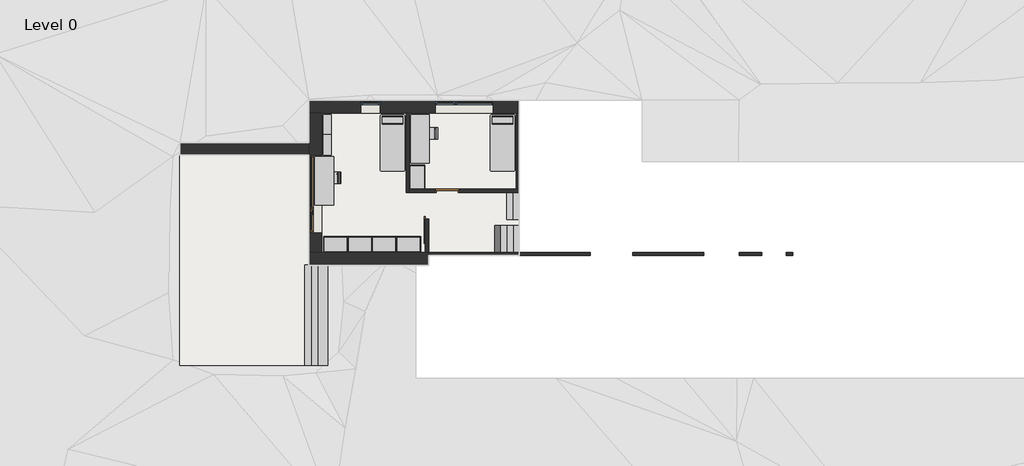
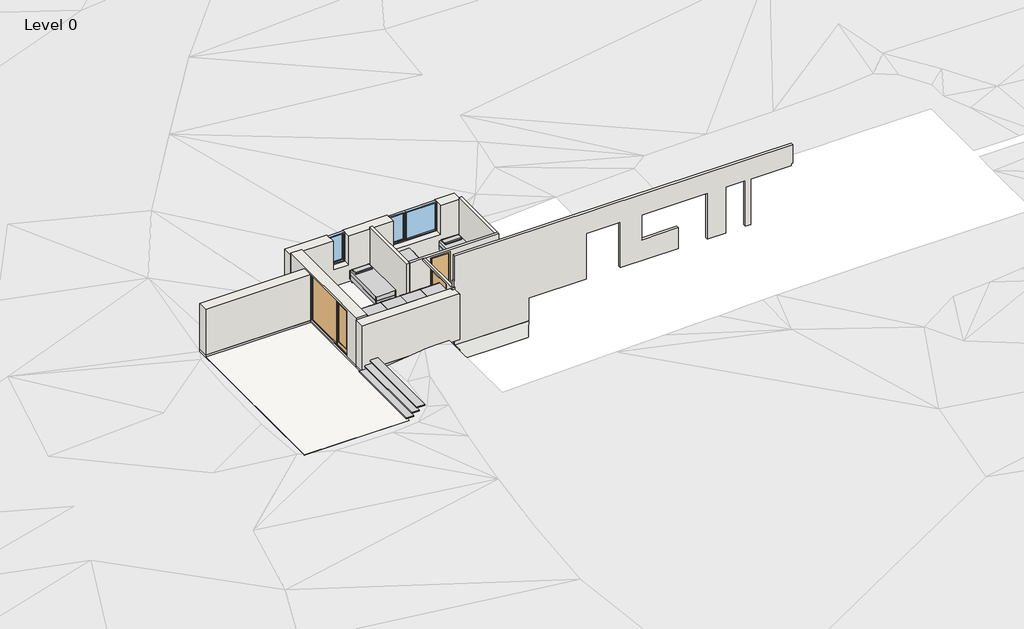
# One storey, part 1 of 2: 13 furniture elements, 13 walls, 3 doors, 3 slabs, 3 stair flights, 2 windows.
"""IFC4 building model written with IfcOpenShell, lengths in millimetres."""

from ifc_helpers import new_model, si_unit, frame, origin, place, context, project, spatial, polyline, outline, extrude, faceted_brep, transform, mapped, element, save
from components import ext_door_window_assembly_glass_2880x2200_mm_93a1fc79, int_single_flush_900x2200_mm_8e8544e1, int_sliding_door_on_wall_m9_x22_8b50374d, furniture_56f83323, furniture_1800_x_700mm_2eab36f4, furniture_750_x_300_x_700mm_660817c4, bed_standard_900_x_21005mm_af0b1266, tall_cabinet_double_door_900mm_d8c8d432, stair_flight_7bb652fa, single_light_720x1400_mm_b30d6d94, window_assembly_individual_2160x1400_mm_0ca40763

model = new_model("IFC4")

# Units and contexts
model_context = context("Model", 3, world=origin())
ifc_project = project(units=[si_unit("LENGTHUNIT", "METRE", prefix="MILLI")], contexts=[model_context])

# Site, building, storey
site = spatial("IfcSite", under=ifc_project)
building = spatial("IfcBuilding", under=site)
storey = spatial("IfcBuildingStorey", under=building, Name="Level 0", Elevation=-600.0)

# Doors
placement = place(None, origin())
ext_door_window_assembly_glass_2880x2200_mm_shape = ext_door_window_assembly_glass_2880x2200_mm_93a1fc79(model_context)
element("IfcDoor", 1, ObjectType="Ext. Door Window Assembly - Glass : 2880x2200 mm", at=placement, inside=storey, context=model_context, shape_type="MappedRepresentation", body=[
    mapped(ext_door_window_assembly_glass_2880x2200_mm_shape, transform((240.0, 6480.0, -600.0), x_axis=(0.0, -1.0, 0.0), y_axis=(1.0, 0.0, 0.0), z_axis=(0.0, 0.0, 1.0))),
])
int_single_flush_900x2200_mm_shape = int_single_flush_900x2200_mm_8e8544e1(model_context)
element("IfcDoor", 2, ObjectType="Int. Single-Flush : 900x2200 mm", at=placement, inside=storey, context=model_context, shape_type="MappedRepresentation", body=[
    mapped(int_single_flush_900x2200_mm_shape, transform((5130.0, 6600.0, -600.0), x_axis=(-1.0, 0.0, 0.0), y_axis=(0.0, -1.0, 0.0), z_axis=(0.0, 0.0, 1.0))),
])
int_sliding_door_on_wall_m9_x22_shape = int_sliding_door_on_wall_m9_x22_8b50374d(model_context)
element("IfcDoor", 3, ObjectType="Int. Sliding Door on wall : M9 x22", at=placement, inside=storey, context=model_context, shape_type="MappedRepresentation", body=[
    mapped(int_sliding_door_on_wall_m9_x22_shape, transform((4430.0, 6036.0, -600.0), x_axis=(0.0, 1.0, 0.0), y_axis=(-1.0, 0.0, 0.0), z_axis=(0.0, 0.0, 1.0))),
])

# Furniture
furniture_shape = furniture_56f83323(model_context)
element("IfcFurniture", 4, ObjectType="Chair - Allround : Dining Chair Trendy", at=placement, inside=storey, context=model_context, shape_type="MappedRepresentation", body=[
    mapped(furniture_shape, transform((873.7758359, 7090.0, -600.0), x_axis=(0.0, -1.0, 0.0), y_axis=(1.0, 0.0, 0.0), z_axis=(0.0, 0.0, 1.0))),
])
element("IfcFurniture", 5, ObjectType="Chair - Allround : Dining Chair Trendy", at=placement, inside=storey, context=model_context, shape_type="MappedRepresentation", body=[
    mapped(furniture_shape, transform((4480.0, 8730.0, -600.0), x_axis=(0.0, -1.0, 0.0), y_axis=(1.0, 0.0, 0.0), z_axis=(0.0, 0.0, 1.0))),
])
furniture_1800_x_700mm_shape = furniture_1800_x_700mm_2eab36f4(model_context)
element("IfcFurniture", 6, ObjectType="Table - Allround : 1800 x 700mm", at=placement, inside=storey, context=model_context, shape_type="MappedRepresentation", body=[
    mapped(furniture_1800_x_700mm_shape, transform((565.0, 6970.0, -600.0), x_axis=(0.0, 1.0, 0.0), y_axis=(-1.0, 0.0, 0.0), z_axis=(0.0, 0.0, 1.0))),
])
element("IfcFurniture", 7, ObjectType="Table - Allround : 1800 x 700mm", at=placement, inside=storey, context=model_context, shape_type="MappedRepresentation", body=[
    mapped(furniture_1800_x_700mm_shape, transform((4120.0, 8530.0, -600.0), x_axis=(0.0, 1.0, 0.0), y_axis=(-1.0, 0.0, 0.0), z_axis=(0.0, 0.0, 1.0))),
])
furniture_750_x_300_x_700mm_shape = furniture_750_x_300_x_700mm_660817c4(model_context)
element("IfcFurniture", 8, ObjectType="Shelving (Floor) - Allround : 750 x 300 x 700mm", at=placement, inside=storey, context=model_context, shape_type="MappedRepresentation", body=[
    mapped(furniture_750_x_300_x_700mm_shape, transform((984.8, 9055.0, -600.0), x_axis=(0.0, -1.0, 0.0), y_axis=(1.0, 0.0, 0.0), z_axis=(0.0, 0.0, 1.0))),
])
element("IfcFurniture", 9, ObjectType="Shelving (Floor) - Allround : 750 x 300 x 700mm", at=placement, inside=storey, context=model_context, shape_type="MappedRepresentation", body=[
    mapped(furniture_750_x_300_x_700mm_shape, transform((984.8, 8305.0, -600.0), x_axis=(0.0, -1.0, 0.0), y_axis=(1.0, 0.0, 0.0), z_axis=(0.0, 0.0, 1.0))),
])
bed_standard_900_x_21005mm_shape = bed_standard_900_x_21005mm_af0b1266(model_context)
element("IfcFurniture", 10, ObjectType="Bed - Standard : 900 x 21005mm", at=placement, inside=storey, context=model_context, shape_type="MappedRepresentation", body=[
    mapped(bed_standard_900_x_21005mm_shape, transform((6908.5114754, 8423.095082, -600.0), x_axis=(1.0, 0.0, 0.0), y_axis=(0.0, 1.0, 0.0), z_axis=(0.0, 0.0, 1.0))),
])
element("IfcFurniture", 11, ObjectType="Bed - Standard : 900 x 21005mm", at=placement, inside=storey, context=model_context, shape_type="MappedRepresentation", body=[
    mapped(bed_standard_900_x_21005mm_shape, transform((2828.5114754, 8423.095082, -600.0), x_axis=(1.0, 0.0, 0.0), y_axis=(0.0, 1.0, 0.0), z_axis=(0.0, 0.0, 1.0))),
])
tall_cabinet_double_door_900mm_shape = tall_cabinet_double_door_900mm_d8c8d432(model_context)
element("IfcFurniture", 12, ObjectType="Tall Cabinet - Double door : 900mm", at=placement, inside=storey, context=model_context, shape_type="MappedRepresentation", body=[
    mapped(tall_cabinet_double_door_900mm_shape, transform((1034.7003264, 4320.0, -600.0), x_axis=(-0.9999999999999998, 0.0, 0.0), y_axis=(0.0, -0.9999999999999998, 0.0), z_axis=(0.0, 0.0, 1.0))),
])
element("IfcFurniture", 13, ObjectType="Tall Cabinet - Double door : 900mm", at=placement, inside=storey, context=model_context, shape_type="MappedRepresentation", body=[
    mapped(tall_cabinet_double_door_900mm_shape, transform((3720.0, 7065.2996736, -600.0), x_axis=(0.0, 1.0000000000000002, 0.0), y_axis=(-1.0000000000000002, 0.0, 0.0), z_axis=(0.0, 0.0, 1.0))),
])
element("IfcFurniture", 14, ObjectType="Tall Cabinet - Double door : 900mm", at=placement, inside=storey, context=model_context, shape_type="MappedRepresentation", body=[
    mapped(tall_cabinet_double_door_900mm_shape, transform((1934.7003264, 4320.0, -600.0), x_axis=(-0.9999999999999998, 0.0, 0.0), y_axis=(0.0, -0.9999999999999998, 0.0), z_axis=(0.0, 0.0, 1.0))),
])
element("IfcFurniture", 15, ObjectType="Tall Cabinet - Double door : 900mm", at=placement, inside=storey, context=model_context, shape_type="MappedRepresentation", body=[
    mapped(tall_cabinet_double_door_900mm_shape, transform((2834.7003264, 4320.0, -600.0), x_axis=(-0.9999999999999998, 0.0, 0.0), y_axis=(0.0, -0.9999999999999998, 0.0), z_axis=(0.0, 0.0, 1.0))),
])
element("IfcFurniture", 16, ObjectType="Tall Cabinet - Double door : 900mm", at=placement, inside=storey, context=model_context, shape_type="MappedRepresentation", body=[
    mapped(tall_cabinet_double_door_900mm_shape, transform((3734.7003264, 4320.0, -600.0), x_axis=(-0.9999999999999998, 0.0, 0.0), y_axis=(0.0, -0.9999999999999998, 0.0), z_axis=(0.0, 0.0, 1.0))),
])

# Slabs
element("IfcSlab", 17, ObjectType="Generic - 500mm", at=placement, inside=storey, context=model_context, shape_type="SweptSolid", body=[
    extrude(outline(polyline([(480.0, 7920.0), (480.0, 9480.0), (7800.0, 9480.0), (7800.0, 4320.0), (480.0, 4320.0), (480.0, 5040.0), (165.0, 5040.0), (165.0, 7920.0), (480.0, 7920.0)])), frame((0.0, 0.0, -1100.0), z_axis=(0.0, 0.0, 1.0), x_axis=(1.0, 0.0, 0.0)), (0.0, 0.0, 1.0), 500.0),
])
element("IfcSlab", 18, ObjectType="Generic - Concrete 100 mm (Exterior)", at=placement, inside=storey, context=model_context, shape_type="SweptSolid", body=[
    extrude(outline(polyline([(-4800.0, 120.0), (-4800.0, 7920.0), (0.0, 7920.0), (0.0, 120.0), (-4800.0, 120.0)])), frame((0.0, 0.0, -800.0), z_axis=(0.0, 0.0, 1.0), x_axis=(1.0, 0.0, 0.0)), (0.0, 0.0, 1.0), 100.0),
])
element("IfcSlab", 19, ObjectType="Pad 1", at=placement, inside=storey, context=model_context, shape_type="SweptSolid", body=[
    extrude(outline(polyline([(7800.0, 4200.0), (4440.0, 4200.0), (4440.0, 3840.0), (0.0, 3840.0), (0.0, 7920.0), (-4800.0, 7920.0), (-4800.0, 8400.0), (0.0, 8400.0), (0.0, 9960.0), (7800.0, 9960.0), (7800.0, 4200.0)])), frame((0.0, 0.0, -1900.0), z_axis=(0.0, 0.0, 1.0), x_axis=(1.0, 0.0, 0.0)), (0.0, 0.0, 1.0), 800.0),
])

# Stair flights
stair_flight_shape = stair_flight_7bb652fa(model_context)
element("IfcStairFlight", 20, ObjectType="50 mm Tread 30 mm Nosing 15 mm Riser", at=placement, inside=storey, context=model_context, shape_type="MappedRepresentation", body=[
    mapped(stair_flight_shape, transform((0.0, 0.0, 0.0), x_axis=(1.0, 0.0, 0.0), y_axis=(0.0, 1.0, 0.0), z_axis=(0.0, 0.0, 1.0))),
])
element("IfcStairFlight", 21, ObjectType="No Nosing", at=placement, inside=storey, context=model_context, shape_type="Brep", body=[
    faceted_brep([(7570.0, 6540.0, -400.0), (7340.0, 6540.0, -400.0), (7340.0, 5540.0, -400.0), (7570.0, 5540.0, -400.0), (7570.0, 6540.0, -598.7793564), (7568.5962598, 6540.0, -600.0), (7340.0, 6540.0, -600.0), (7340.0, 5540.0, -600.0), (7568.5962598, 5540.0, -600.0), (7570.0, 5540.0, -598.7793564), (7800.0, 6540.0, -200.0), (7570.0, 6540.0, -200.0), (7570.0, 5540.0, -200.0), (7800.0, 5540.0, -200.0), (7800.0, 6540.0, -398.7793564), (7800.0, 5540.0, -398.7793564)], [[[0, 1, 2, 3]], [[1, 0, 4, 5, 6]], [[2, 1, 6, 7]], [[3, 2, 7, 8, 9]], [[10, 11, 12, 13]], [[11, 10, 14, 4, 0]], [[0, 3, 12, 11]], [[13, 12, 3, 9, 15]], [[10, 13, 15, 14]], [[7, 6, 5, 8]], [[8, 5, 4, 14, 15, 9]]]),
])
element("IfcStairFlight", 22, ObjectType="No Nosing", at=placement, inside=storey, context=model_context, shape_type="Brep", body=[
    faceted_brep([(7570.0, 4320.0, 200.0), (7800.0, 4320.0, 200.0), (7800.0, 5320.0, 200.0), (7570.0, 5320.0, 200.0), (7570.0, 4320.0, 1.2206436), (7800.0, 4320.0, -198.7793564), (7800.0, 5320.0, -198.7793564), (7570.0, 5320.0, 1.2206436), (7340.0, 4320.0, 400.0), (7570.0, 4320.0, 400.0), (7570.0, 5320.0, 400.0), (7340.0, 5320.0, 400.0), (7340.0, 4320.0, 201.2206436), (7340.0, 5320.0, 201.2206436), (7110.0, 4320.0, 600.0), (7340.0, 4320.0, 600.0), (7340.0, 5320.0, 600.0), (7110.0, 5320.0, 600.0), (7110.0, 4320.0, 401.2206436), (7110.0, 5320.0, 401.2206436), (6880.0, 4320.0, 800.0), (7110.0, 4320.0, 800.0), (7110.0, 5320.0, 800.0), (6880.0, 5320.0, 800.0), (6880.0, 4320.0, 601.2206436), (6880.0, 5320.0, 601.2206436), (6650.0, 4320.0, 1000.0), (6880.0, 4320.0, 1000.0), (6880.0, 5320.0, 1000.0), (6650.0, 5320.0, 1000.0), (6650.0, 4320.0, 801.2206436), (6650.0, 5320.0, 801.2206436), (6420.0, 4320.0, 1200.0), (6650.0, 4320.0, 1200.0), (6650.0, 5320.0, 1200.0), (6420.0, 5320.0, 1200.0), (6420.0, 4320.0, 1001.2206436), (6420.0, 5320.0, 1001.2206436), (6190.0, 4320.0, 1400.0), (6420.0, 4320.0, 1400.0), (6420.0, 5320.0, 1400.0), (6190.0, 5320.0, 1400.0), (6190.0, 4320.0, 1201.2206436), (6190.0, 5320.0, 1201.2206436), (5960.0, 4320.0, 1600.0), (6190.0, 4320.0, 1600.0), (6190.0, 5320.0, 1600.0), (5960.0, 5320.0, 1600.0), (5960.0, 4320.0, 1401.2206436), (5960.0, 5320.0, 1401.2206436), (5730.0, 4320.0, 1800.0), (5960.0, 4320.0, 1800.0), (5960.0, 5320.0, 1800.0), (5730.0, 5320.0, 1800.0), (5730.0, 4320.0, 1601.2206436), (5730.0, 5320.0, 1601.2206436)], [[[0, 1, 2, 3]], [[1, 0, 4, 5]], [[2, 1, 5, 6]], [[3, 2, 6, 7]], [[8, 9, 10, 11]], [[9, 8, 12, 4, 0]], [[0, 3, 10, 9]], [[11, 10, 3, 7, 13]], [[14, 15, 16, 17]], [[15, 14, 18, 12, 8]], [[8, 11, 16, 15]], [[17, 16, 11, 13, 19]], [[20, 21, 22, 23]], [[21, 20, 24, 18, 14]], [[14, 17, 22, 21]], [[23, 22, 17, 19, 25]], [[26, 27, 28, 29]], [[27, 26, 30, 24, 20]], [[20, 23, 28, 27]], [[29, 28, 23, 25, 31]], [[32, 33, 34, 35]], [[33, 32, 36, 30, 26]], [[26, 29, 34, 33]], [[35, 34, 29, 31, 37]], [[38, 39, 40, 41]], [[39, 38, 42, 36, 32]], [[32, 35, 40, 39]], [[41, 40, 35, 37, 43]], [[44, 45, 46, 47]], [[45, 44, 48, 42, 38]], [[38, 41, 46, 45]], [[47, 46, 41, 43, 49]], [[50, 51, 52, 53]], [[51, 50, 54, 48, 44]], [[44, 47, 52, 51]], [[53, 52, 47, 49, 55]], [[50, 53, 55, 54]], [[5, 4, 12, 18, 24, 30, 36, 42, 48, 54, 55, 49, 43, 37, 31, 25, 19, 13, 7, 6]]]),
])

# Walls
element("IfcWall", 23, ObjectType="Generic - 120mm (Interior)", at=placement, inside=storey, context=model_context, shape_type="Brep", body=[
    faceted_brep([(3600.0, 9480.0, -600.0), (3600.0, 6540.0, -600.0), (3600.0, 6540.0, 1700.0), (3600.0, 9480.0, 1700.0), (3720.0, 9480.0, -600.0), (3720.0, 9480.0, 1700.0), (3720.0, 6660.0, 1700.0), (3720.0, 6540.0, 1700.0), (3720.0, 6540.0, -600.0), (3720.0, 6660.0, -600.0)], [[[0, 1, 2, 3]], [[4, 5, 6, 7, 8, 9]], [[1, 0, 4, 9, 8]], [[0, 3, 5, 4]], [[2, 1, 8, 7]], [[3, 2, 7, 6, 5]]]),
])
element("IfcWall", 24, ObjectType="Generic - 120mm (Interior)", at=placement, inside=storey, context=model_context, shape_type="Brep", body=[
    faceted_brep([(4440.0, 4320.0, 1600.0), (4440.0, 4320.0, -600.0), (4440.0, 5556.0, -600.0), (4440.0, 5556.0, 1612.0), (4440.0, 6540.0, 1612.0), (4440.0, 6540.0, 1700.0), (4440.0, 4320.0, 1700.0), (4440.0, 4200.0, 1700.0), (4440.0, 4200.0, 1600.0), (4320.0, 4320.0, -600.0), (4320.0, 4320.0, 1600.0), (4320.0, 4200.0, 1600.0), (4320.0, 4200.0, 1700.0), (4320.0, 4320.0, 1700.0), (4320.0, 6540.0, 1700.0), (4320.0, 6540.0, 1612.0), (4320.0, 5556.0, 1612.0), (4320.0, 5556.0, -600.0), (4380.0, 4200.0, 1700.0)], [[[0, 1, 2, 3, 4, 5, 6, 7, 8]], [[9, 10, 11, 12, 13, 14, 15, 16, 17]], [[1, 9, 17, 2]], [[14, 5, 4, 15]], [[3, 16, 15, 4]], [[16, 3, 2, 17]], [[9, 1, 0, 10]], [[7, 18, 12, 11, 8]], [[11, 10, 0, 8]], [[12, 18, 7, 6, 13]], [[6, 5, 14, 13]]]),
])
element("IfcWall", 25, ObjectType="Generic - 120mm (Interior)", at=placement, inside=storey, context=model_context, shape_type="Brep", body=[
    faceted_brep([(7800.0, 6660.0, 1700.0), (7800.0, 6660.0, -600.0), (7800.0, 9480.0, -600.0), (7800.0, 9480.0, 1700.0), (7680.0, 6660.0, -600.0), (7680.0, 6660.0, 1700.0), (7680.0, 9480.0, 1700.0), (7680.0, 9480.0, -600.0), (7740.0, 9480.0, -600.0)], [[[0, 1, 2, 3]], [[4, 5, 6, 7]], [[2, 1, 4, 7, 8]], [[3, 2, 8, 7, 6]], [[0, 3, 6, 5]], [[0, 5, 4, 1]]]),
])
element("IfcWall", 26, ObjectType="Generic - 120mm (Interior)", at=placement, inside=storey, context=model_context, shape_type="Brep", body=[
    faceted_brep([(4440.0, 4200.0, -1100.0), (7800.0, 4200.0, -1100.0), (7800.0, 4200.0, 0.0), (10440.0, 4200.0, 0.0), (10440.0, 4200.0, 2200.0), (11880.0, 4200.0, 2200.0), (12000.0, 4200.0, 2200.0), (12000.0, 4200.0, 0.0), (14640.0, 4200.0, 0.0), (14640.0, 4200.0, 1000.0), (12960.0, 4200.0, 1000.0), (12960.0, 4200.0, 2200.0), (15840.0, 4200.0, 2200.0), (15960.0, 4200.0, 2200.0), (15960.0, 4200.0, 0.0), (16800.0, 4200.0, 0.0), (16800.0, 4200.0, 2200.0), (17700.0, 4200.0, 2200.0), (17700.0, 4200.0, 0.0), (17940.0, 4200.0, 0.0), (17940.0, 4200.0, 2200.0), (19800.0, 4200.0, 2200.0), (19800.0, 4200.0, 2300.0), (19860.0, 4200.0, 2300.0), (19860.0, 4200.0, 3200.0), (4440.0, 4200.0, 3200.0), (4440.0, 4200.0, 3183.7180218), (4440.0, 4200.0, 2000.0), (4380.0, 4200.0, 2000.0), (4380.0, 4200.0, 1700.0), (4440.0, 4200.0, 1700.0), (4440.0, 4200.0, 1600.0), (7800.0, 4320.0, -1100.0), (4440.0, 4320.0, -1100.0), (4440.0, 4320.0, -600.0), (4440.0, 4320.0, 1600.0), (4440.0, 4320.0, 1700.0), (4380.0, 4320.0, 1700.0), (4380.0, 4320.0, 2000.0), (4440.0, 4320.0, 2000.0), (4440.0, 4320.0, 3200.0), (12360.0, 4320.0, 3200.0), (19860.0, 4320.0, 3200.0), (19860.0, 4320.0, 2300.0), (19800.0, 4320.0, 2300.0), (19800.0, 4320.0, 2200.0), (17940.0, 4320.0, 2200.0), (17940.0, 4320.0, 0.0), (17820.0, 4320.0, 0.0), (17700.0, 4320.0, 0.0), (17700.0, 4320.0, 2200.0), (16800.0, 4320.0, 2200.0), (16800.0, 4320.0, 0.0), (16680.0, 4320.0, 0.0), (16560.0, 4320.0, 0.0), (15960.0, 4320.0, 0.0), (15960.0, 4320.0, 2200.0), (15840.0, 4320.0, 2200.0), (12960.0, 4320.0, 2200.0), (12960.0, 4320.0, 1000.0), (14640.0, 4320.0, 1000.0), (14640.0, 4320.0, 0.0), (12000.0, 4320.0, 0.0), (12000.0, 4320.0, 2200.0), (11880.0, 4320.0, 2200.0), (10440.0, 4320.0, 2200.0), (10440.0, 4320.0, 0.0), (7800.0, 4320.0, 0.0)], [[[0, 1, 2, 3, 4, 5, 6, 7, 8, 9, 10, 11, 12, 13, 14, 15, 16, 17, 18, 19, 20, 21, 22, 23, 24, 25, 26, 27, 28, 29, 30, 31]], [[32, 33, 34, 35, 36, 37, 38, 39, 40, 41, 42, 43, 44, 45, 46, 47, 48, 49, 50, 51, 52, 53, 54, 55, 56, 57, 58, 59, 60, 61, 62, 63, 64, 65, 66, 67]], [[1, 0, 33, 32]], [[25, 24, 42, 41, 40]], [[2, 1, 32, 67]], [[8, 7, 62, 61]], [[3, 2, 67, 66]], [[4, 3, 66, 65]], [[6, 5, 4, 65, 64, 63]], [[9, 8, 61, 60]], [[10, 9, 60, 59]], [[11, 10, 59, 58]], [[13, 12, 11, 58, 57, 56]], [[14, 55, 54, 53, 52, 15]], [[47, 19, 18, 49, 48]], [[7, 6, 63, 62]], [[51, 16, 15, 52]], [[16, 51, 50, 17]], [[17, 50, 49, 18]], [[14, 13, 56, 55]], [[21, 20, 46, 45]], [[20, 19, 47, 46]], [[42, 24, 23, 43]], [[43, 23, 22, 44]], [[21, 45, 44, 22]], [[29, 37, 36, 30]], [[33, 0, 31, 30, 36, 35, 34]], [[37, 29, 28, 38]], [[39, 38, 28, 27]], [[25, 40, 39, 27, 26]]]),
])
element("IfcWall", 27, ObjectType="Generic - 120mm (Interior)", at=placement, inside=storey, context=model_context, shape_type="Brep", body=[
    faceted_brep([(3720.0, 6540.0, 1700.0), (3720.0, 6540.0, -600.0), (4680.0, 6540.0, -600.0), (4680.0, 6540.0, 1600.0), (5580.0, 6540.0, 1600.0), (5580.0, 6540.0, -600.0), (7800.0, 6540.0, -600.0), (7800.0, 6540.0, 0.0), (7800.0, 6540.0, 1700.0), (4440.0, 6540.0, 1700.0), (4320.0, 6540.0, 1700.0), (3720.0, 6660.0, 1700.0), (7680.0, 6660.0, 1700.0), (7800.0, 6660.0, 1700.0), (7800.0, 6660.0, 0.0), (7800.0, 6660.0, -600.0), (7680.0, 6660.0, -600.0), (5580.0, 6660.0, -600.0), (5580.0, 6660.0, 1600.0), (4680.0, 6660.0, 1600.0), (4680.0, 6660.0, -600.0), (3720.0, 6660.0, -600.0)], [[[0, 1, 2, 3, 4, 5, 6, 7, 8, 9, 10]], [[11, 12, 13, 14, 15, 16, 17, 18, 19, 20, 21]], [[1, 21, 20, 2]], [[15, 6, 5, 17, 16]], [[1, 0, 11, 21]], [[19, 3, 2, 20]], [[3, 19, 18, 4]], [[4, 18, 17, 5]], [[13, 12, 11, 0, 10, 9, 8]], [[6, 15, 14, 13, 8, 7]]]),
])
element("IfcWall", 28, ObjectType="Generic - 480mm (Exterior)", at=placement, inside=storey, context=model_context, shape_type="Brep", body=[
    faceted_brep([(0.0, 9480.0, -600.0), (480.0, 9480.0, -600.0), (3600.0, 9480.0, -600.0), (3720.0, 9480.0, -600.0), (7680.0, 9480.0, -600.0), (7740.0, 9480.0, -600.0), (7740.0, 9480.0, 0.0), (7740.0, 9480.0, 1600.0), (6840.0, 9480.0, 1600.0), (6840.0, 9480.0, 200.0), (4680.0, 9480.0, 200.0), (4680.0, 9480.0, 1600.0), (2640.0, 9480.0, 1600.0), (2640.0, 9480.0, 200.0), (1920.0, 9480.0, 200.0), (1920.0, 9480.0, 1600.0), (0.0, 9480.0, 1600.0), (7740.0, 9960.0, -600.0), (0.0, 9960.0, -600.0), (0.0, 9960.0, 1600.0), (1920.0, 9960.0, 1600.0), (1920.0, 9960.0, 200.0), (2640.0, 9960.0, 200.0), (2640.0, 9960.0, 1600.0), (4680.0, 9960.0, 1600.0), (4680.0, 9960.0, 200.0), (6840.0, 9960.0, 200.0), (6840.0, 9960.0, 1600.0), (7740.0, 9960.0, 1600.0), (7740.0, 9960.0, 0.0)], [[[0, 1, 2, 3, 4, 5, 6, 7, 8, 9, 10, 11, 12, 13, 14, 15, 16]], [[17, 18, 19, 20, 21, 22, 23, 24, 25, 26, 27, 28, 29]], [[5, 4, 3, 2, 1, 0, 18, 17]], [[23, 12, 11, 24]], [[15, 20, 19, 16]], [[7, 28, 27, 8]], [[26, 9, 8, 27]], [[10, 25, 24, 11]], [[9, 26, 25, 10]], [[23, 22, 13, 12]], [[21, 20, 15, 14]], [[22, 21, 14, 13]], [[5, 17, 29, 28, 7, 6]], [[0, 16, 19, 18]]]),
])
element("IfcWall", 29, ObjectType="Generic - 480mm (Exterior)", at=placement, inside=storey, context=model_context, shape_type="Brep", body=[
    faceted_brep([(4440.0, 4320.0, 1600.0), (4440.0, 4320.0, -600.0), (4320.0, 4320.0, -600.0), (480.0, 4320.0, -600.0), (0.0, 4320.0, -600.0), (0.0, 4320.0, 1600.0), (4320.0, 4320.0, 1600.0), (4380.0, 4320.0, 1600.0), (4440.0, 3840.0, -600.0), (4440.0, 3840.0, 1600.0), (4380.0, 3840.0, 1600.0), (0.0, 3840.0, 1600.0), (0.0, 3840.0, -600.0), (4440.0, 4200.0, 1600.0)], [[[0, 1, 2, 3, 4, 5, 6, 7]], [[8, 9, 10, 11, 12]], [[4, 3, 2, 1, 8, 12]], [[0, 7, 6, 5, 11, 10, 9, 13]], [[0, 13, 9, 8, 1]], [[5, 4, 12, 11]]]),
])
element("IfcWall", 30, ObjectType="Generic - 480mm (Exterior)", at=placement, inside=storey, context=model_context, shape_type="Brep", body=[
    faceted_brep([(480.0, 4320.0, 1700.0), (480.0, 4320.0, -600.0), (480.0, 5040.0, -600.0), (480.0, 5040.0, 1600.0), (480.0, 7920.0, 1600.0), (480.0, 7920.0, -600.0), (480.0, 9480.0, -600.0), (480.0, 9480.0, 1700.0), (0.0, 4320.0, -600.0), (0.0, 4320.0, 1600.0), (0.0, 4320.0, 1700.0), (0.0, 9480.0, 1700.0), (0.0, 9480.0, 1600.0), (0.0, 9480.0, -600.0), (0.0, 8400.0, -600.0), (0.0, 7920.0, -600.0), (0.0, 7920.0, 1600.0), (0.0, 5040.0, 1600.0), (0.0, 5040.0, -600.0)], [[[0, 1, 2, 3, 4, 5, 6, 7]], [[8, 9, 10, 11, 12, 13, 14, 15, 16, 17, 18]], [[17, 3, 2, 18]], [[3, 17, 16, 4]], [[4, 16, 15, 5]], [[1, 8, 18, 2]], [[13, 6, 5, 15, 14]], [[1, 0, 10, 9, 8]], [[7, 6, 13, 12, 11]], [[0, 7, 11, 10]]]),
])
element("IfcWall", 31, ObjectType="Generic - 480mm (Exterior)", at=placement, inside=storey, context=model_context, shape_type="SweptSolid", body=[
    extrude(outline(polyline([(-4800.0, 8400.0), (0.0, 8400.0), (0.0, 7920.0), (-4800.0, 7920.0), (-4800.0, 8400.0)])), frame((0.0, 0.0, -600.0), z_axis=(0.0, 0.0, 1.0), x_axis=(1.0, 0.0, 0.0)), (0.0, 0.0, 1.0), 2200.0),
])
element("IfcWall", 32, ObjectType="Generic - 480mm (Foundation)", at=placement, inside=storey, context=model_context, shape_type="Brep", body=[
    faceted_brep([(3960.0, 4320.0, -1900.0), (480.0, 4320.0, -1900.0), (0.0, 4320.0, -1900.0), (0.0, 4320.0, -600.0), (480.0, 4320.0, -600.0), (3960.0, 4320.0, -600.0), (3960.0, 4320.0, -1300.0), (3960.0, 3840.0, -1900.0), (3960.0, 3840.0, -600.0), (0.0, 3840.0, -600.0), (0.0, 3840.0, -1900.0)], [[[0, 1, 2, 3, 4, 5, 6]], [[7, 8, 9, 10]], [[2, 1, 0, 7, 10]], [[5, 4, 3, 9, 8]], [[3, 2, 10, 9]], [[0, 6, 5, 8, 7]]]),
])
element("IfcWall", 33, ObjectType="Generic - 480mm (Foundation)", at=placement, inside=storey, context=model_context, shape_type="Brep", body=[
    faceted_brep([(480.0, 4320.0, -1900.0), (480.0, 9480.0, -1900.0), (480.0, 9960.0, -1900.0), (480.0, 9960.0, -600.0), (480.0, 9480.0, -600.0), (480.0, 4320.0, -600.0), (0.0, 4320.0, -1900.0), (0.0, 4320.0, -600.0), (0.0, 7920.0, -600.0), (0.0, 8400.0, -600.0), (0.0, 9960.0, -600.0), (0.0, 9960.0, -1900.0), (0.0, 8400.0, -1900.0), (0.0, 7920.0, -1900.0)], [[[0, 1, 2, 3, 4, 5]], [[6, 7, 8, 9, 10, 11, 12, 13]], [[2, 1, 0, 6, 13, 12, 11]], [[5, 4, 3, 10, 9, 8, 7]], [[0, 5, 7, 6]], [[3, 2, 11, 10]]]),
])
element("IfcWall", 34, ObjectType="Generic - 480mm (Foundation)", at=placement, inside=storey, context=model_context, shape_type="Brep", body=[
    faceted_brep([(480.0, 9480.0, -1900.0), (7740.0, 9480.0, -1900.0), (7740.0, 9480.0, -1300.0), (7740.0, 9480.0, -600.0), (480.0, 9480.0, -600.0), (480.0, 9960.0, -1900.0), (480.0, 9960.0, -600.0), (7740.0, 9960.0, -600.0), (7740.0, 9960.0, -1300.0), (7740.0, 9960.0, -1900.0)], [[[0, 1, 2, 3, 4]], [[5, 6, 7, 8, 9]], [[1, 0, 5, 9]], [[3, 2, 1, 9, 8, 7]], [[4, 3, 7, 6]], [[0, 4, 6, 5]]]),
])
element("IfcWall", 35, ObjectType="Generic - 480mm (Foundation)", at=placement, inside=storey, context=model_context, shape_type="SweptSolid", body=[
    extrude(outline(polyline([(-4800.0, 8400.0), (0.0, 8400.0), (0.0, 7920.0), (-4800.0, 7920.0), (-4800.0, 8400.0)])), frame((0.0, 0.0, -1900.0), z_axis=(0.0, 0.0, 1.0), x_axis=(1.0, 0.0, 0.0)), (0.0, 0.0, 1.0), 1300.0),
])

# Windows
single_light_720x1400_mm_shape = single_light_720x1400_mm_b30d6d94(model_context)
element("IfcWindow", 36, ObjectType="Single-Light : 720x1400 mm", at=placement, inside=storey, context=model_context, shape_type="MappedRepresentation", body=[
    mapped(single_light_720x1400_mm_shape, transform((2280.0, 9720.0, -600.0), x_axis=(-1.0, 0.0, 0.0), y_axis=(0.0, -1.0, 0.0), z_axis=(0.0, 0.0, 1.0))),
])
window_assembly_individual_2160x1400_mm_shape = window_assembly_individual_2160x1400_mm_0ca40763(model_context)
element("IfcWindow", 37, ObjectType="Window Assembly Individual : 2160x1400 mm", at=placement, inside=storey, context=model_context, shape_type="MappedRepresentation", body=[
    mapped(window_assembly_individual_2160x1400_mm_shape, transform((5760.0, 9720.0, -600.0), x_axis=(-1.0, 0.0, 0.0), y_axis=(0.0, -1.0, 0.0), z_axis=(0.0, 0.0, 1.0))),
])

save(model, "model.ifc")
